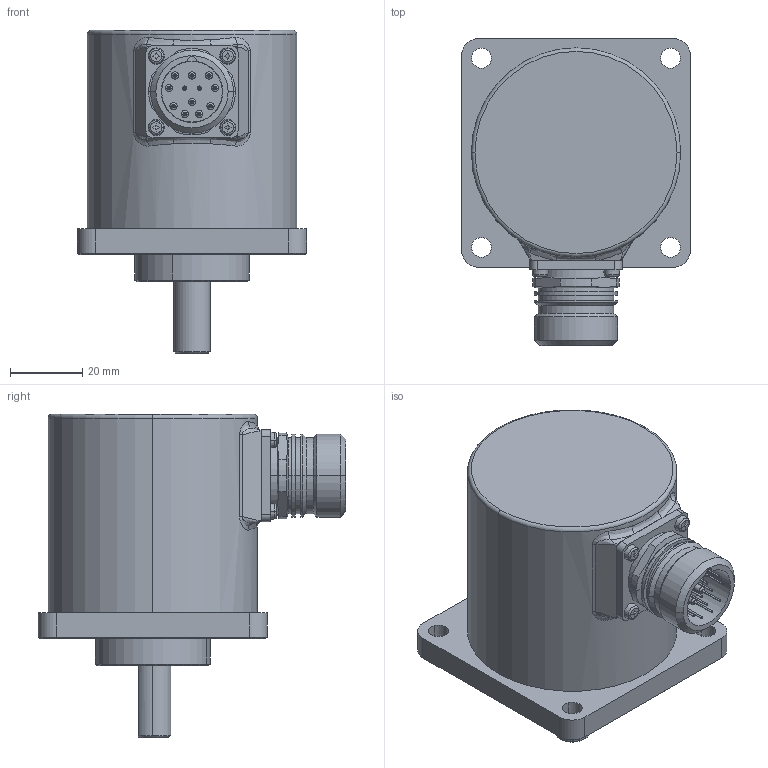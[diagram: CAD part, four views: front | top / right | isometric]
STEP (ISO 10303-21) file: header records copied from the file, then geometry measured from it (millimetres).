
FILE_DESCRIPTION (( 'STEP AP214' ), '1' );
FILE_NAME ('8.5803.M2X5.XXXX.STEP', '2010-12-17T14:02:20', ( 'admin' ), ( 'Fritz Kübler GmbH' ), 'SwSTEP 2.0', 'SolidWorks 2009', '' );
FILE_SCHEMA (( 'AUTOMOTIVE_DESIGN' ));
Length unit declared in the file: millimetre
Products named in the file (1): 8.5803.M2X5.XXXX
Bounding box: 63.5 x 85.25 x 89.55 mm (x, y, z)
Surface area: 27195 mm2 (no closed solid volume)
Topology: 0 solids, 33 shells, 303 faces, 813 edges, 529 vertices
Faces by surface type: cylinder 114, plane 83, torus 38, cone 30, sphere 24, bspline 14
Entity records: 14749 total; most frequent: CARTESIAN_POINT 3706, DIRECTION 1793, ORIENTED_EDGE 1390, EDGE_CURVE 789, AXIS2_PLACEMENT_3D 754, VERTEX_POINT 529, CIRCLE 464, EDGE_LOOP 364
